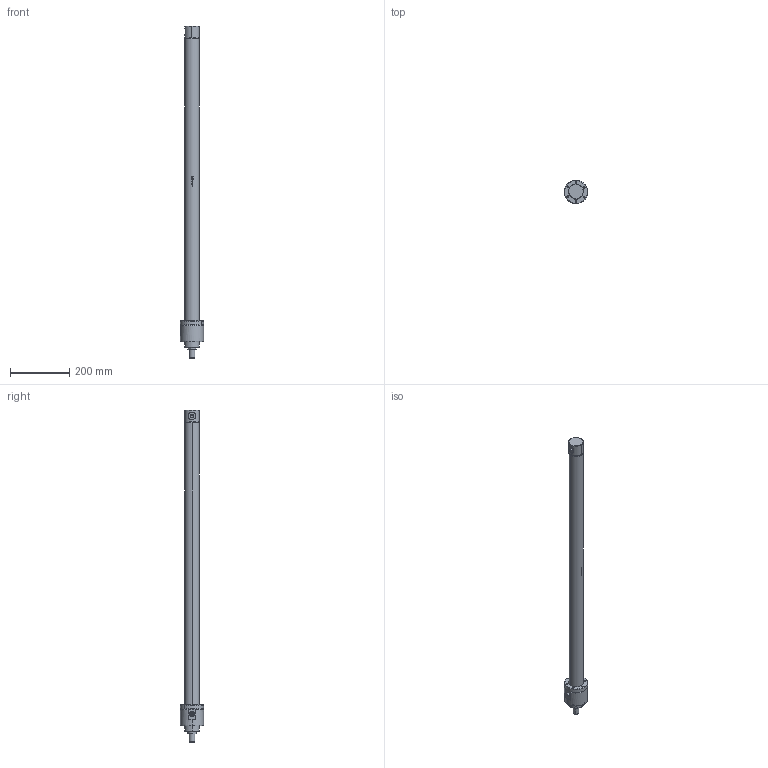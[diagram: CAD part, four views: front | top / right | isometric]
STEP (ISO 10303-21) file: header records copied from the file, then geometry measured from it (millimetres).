
FILE_DESCRIPTION (( 'STEP AP214' ), '1' );
FILE_NAME ('40_28_900_WEB.STEP', '2020-08-05T10:32:27', ( '' ), ( '' ), 'SwSTEP 2.0', 'SolidWorks 2018', '' );
FILE_SCHEMA (( 'AUTOMOTIVE_DESIGN' ));
Length unit declared in the file: millimetre
Products named in the file (11): Kastas Seals-K68-28X32X9_7; FLANS; 40_25_HON_BORU_WEB; KASTAS-K84-32_8X40X3_4; KASTAS-K06-28X36_6X5_3X7; 40_28_900_WEB; 28_K_MIL_WEB; TYAK_40_50; 40_烰_KAPAK; Assem1; KASTAS-K32-28X38X6
Assembly tree (11 placements, depth 3):
  40_28_900_WEB
    40_25_HON_BORU_WEB
    28_K_MIL_WEB
    Assem1
      40_烰_KAPAK
      KASTAS-K06-28X36_6X5_3X7
      KASTAS-K32-28X38X6
      Kastas Seals-K68-28X32X9_7  x2
      KASTAS-K84-32_8X40X3_4
    FLANS
    TYAK_40_50
Bounding box: 78 x 78 x 1118 mm (x, y, z)
Volume: 1066067 mm3; surface area: 360438.1 mm2
Topology: 10 solids, 10 shells, 483 faces, 1177 edges, 751 vertices
Faces by surface type: plane 143, cylinder 130, cone 103, bspline 103, torus 4
Entity records: 21002 total; most frequent: CARTESIAN_POINT 8059, ORIENTED_EDGE 2258, DIRECTION 2058, EDGE_CURVE 1129, AXIS2_PLACEMENT_3D 795, VERTEX_POINT 720, EDGE_LOOP 541, VECTOR 468
